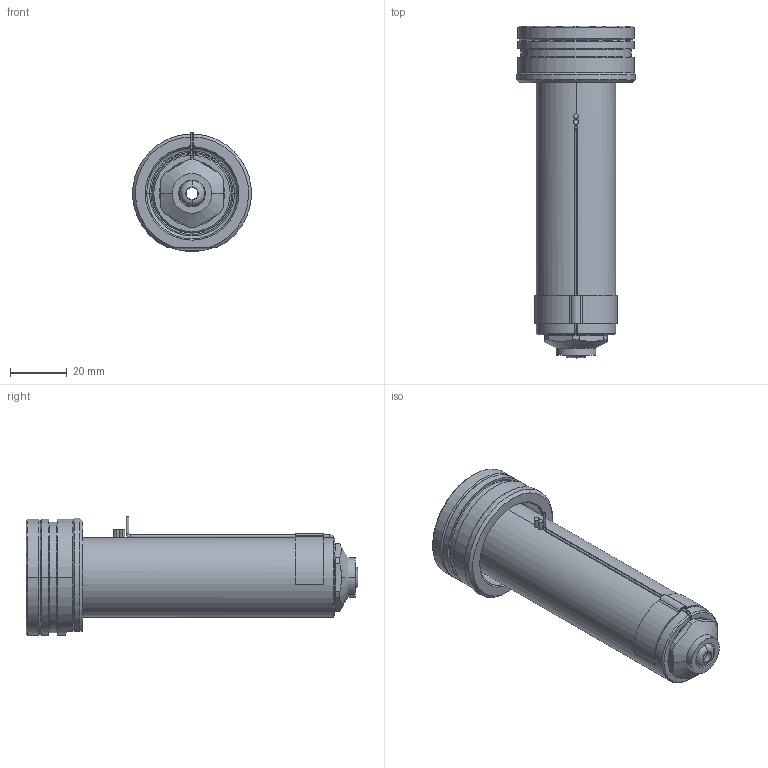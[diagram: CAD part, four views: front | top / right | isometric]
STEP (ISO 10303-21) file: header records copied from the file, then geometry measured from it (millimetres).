
FILE_DESCRIPTION((''),'2;1');
FILE_NAME('EO10_VG-BL_STD_100_SW','2024-02-19T13:09:18',('sundharh'),(''),'CREO PARAMETRIC BY PTC INC, 2023154','CREO PARAMETRIC BY PTC INC, 2023154','');
FILE_SCHEMA(('CONFIG_CONTROL_DESIGN'));
Length unit declared in the file: millimetre
Products named in the file (1): EO10_VG-BL_STD_100_SW
Bounding box: 41.85 x 117.2 x 42.02 mm (x, y, z)
Volume: 71830.2 mm3; surface area: 20823.7 mm2
Topology: 1 solids, 1 shells, 188 faces, 469 edges, 286 vertices
Faces by surface type: cylinder 71, plane 46, cone 35, torus 23, bspline 11, sphere 2
Entity records: 6485 total; most frequent: CARTESIAN_POINT 1920, DIRECTION 1005, ORIENTED_EDGE 934, EDGE_CURVE 467, AXIS2_PLACEMENT_3D 419, VERTEX_POINT 286, CIRCLE 242, EDGE_LOOP 203
